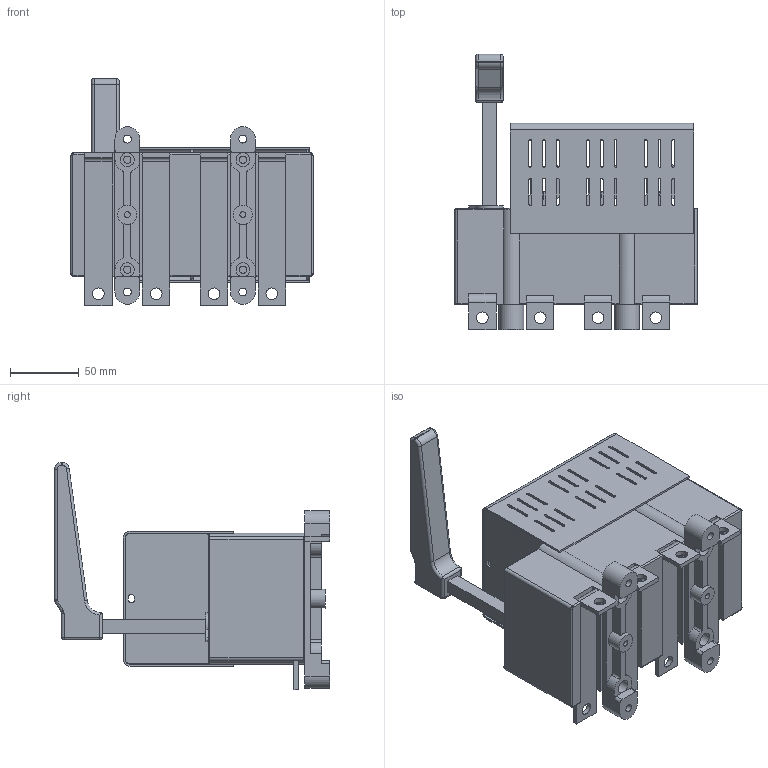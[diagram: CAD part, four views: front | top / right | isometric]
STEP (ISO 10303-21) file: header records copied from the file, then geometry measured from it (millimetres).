
FILE_DESCRIPTION(/* description */ (''),/* implementation_level */ '2;1');
FILE_NAME(/* name */ 'RAB 00 P3 NA-R.stp',/* time_stamp */ '2021-08-19T11:11:13+02:00',/* author */ (''),/* organization */ (''),/* preprocessor_version */ 'ST-DEVELOPER v18.1',/* originating_system */ 'SIEMENS PLM Software NX 1965',/* authorisation */ '');
FILE_SCHEMA (('FEATURE_BASED_PROCESS_PLANNING','AP242_MANAGED_MODEL_BASED_3D_ENGINEERING_MIM_LF { 1 0 10303 442 1 1 4 }'));
Length unit declared in the file: millimetre
Products named in the file (1): RAB 00 P3 NA-R_stp
Bounding box: 176 x 200 x 165 mm (x, y, z)
Volume: 1288273.6 mm3; surface area: 232159.2 mm2
Topology: 1 solids, 1 shells, 906 faces, 2532 edges, 1644 vertices
Faces by surface type: plane 561, cylinder 323, torus 12, sphere 6, bspline 4
Full cylindrical faces by diameter (mm): 2.7 x4, 4.3 x2, 5 x6, 5.3 x4, 5.8 x4, 8.5 x8, 10 x8, 14 x2
Entity records: 28906 total; most frequent: CARTESIAN_POINT 5159, ORIENTED_EDGE 4916, DIRECTION 4900, EDGE_CURVE 2458, LINE 1774, VECTOR 1774, VERTEX_POINT 1614, AXIS2_PLACEMENT_3D 1563
